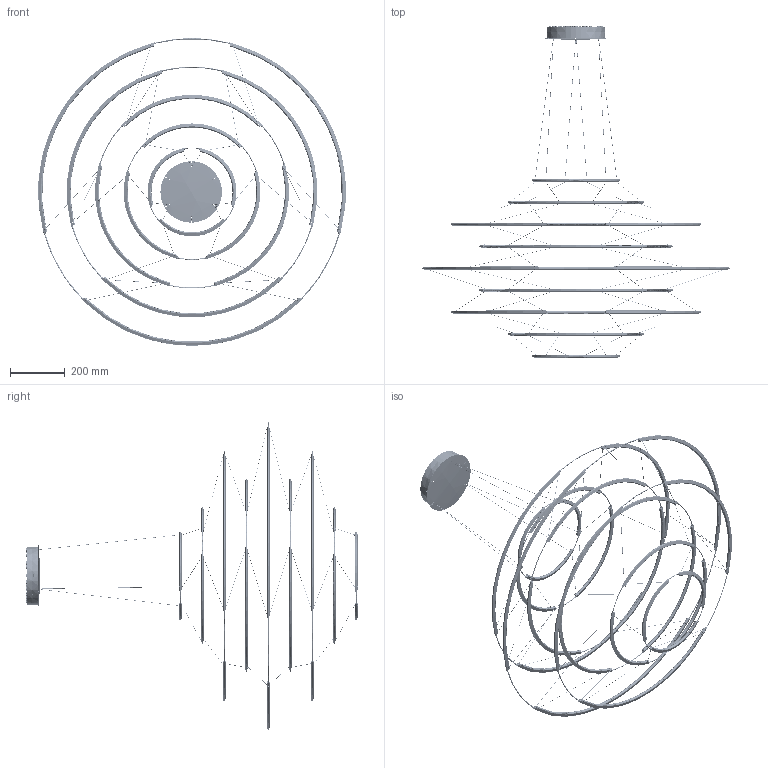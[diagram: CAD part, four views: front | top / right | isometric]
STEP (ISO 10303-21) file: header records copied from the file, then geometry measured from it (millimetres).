
FILE_DESCRIPTION (( 'STEP AP214' ), '1' );
FILE_NAME ('3d_drop.STEP', '2022-10-21T09:40:56', ( '' ), ( '' ), 'SwSTEP 2.0', 'SolidWorks 2016', '' );
FILE_SCHEMA (( 'AUTOMOTIVE_DESIGN' ));
Length unit declared in the file: millimetre
Products named in the file (41): 052DRP700100-200_END CAP_-; 051DRP000100_estruso drop_712; Parte2^assieme piani; piano singolo_300; 010DRP000100-500_tondino piegato_500; 3d_drop; ASS_TERZO_DROP_500; piano singolo_900; DRP_PROFILO PLASTICA_GIPLAST13PE59_512; 051DRP000100_estruso drop_1120; 052DRP700100-200_END CAP_+; 000_ASS_A DROP_CONNETTORE_-; DRP_PROFILO PLASTICA_GIPLAST13PE59_312; ASS_TERZO_DROP_1100; 051DRP000100_estruso drop_312; 093DRP000100_striscia LED DROP A MISURA_300; 010DRP000100-500_tondino piegato_900; 093DRP000100_striscia LED DROP A MISURA_700; piano singolo_500; DRP_PROFILO PLASTICA_GIPLAST13PE59_912; DRP_PROFILO PLASTICA_GIPLAST13PE59_1112; SpecchiaturaParte2^assieme piani; 000_ASS_A DROP_CONNETTORE_+; DRP_PROFILO PLASTICA_GIPLAST13PE59_712; ASS_UNI CANOPY_ELLISSE DOUBLE; 051DRP000100_estruso drop_512; 010DRP000100-500_tondino piegato_700; piano singolo_1100; ASS_TERZO_DROP_900; 093DRP000100_striscia LED DROP A MISURA_500; 052COM702210_BASE ROSONE_A_Rosone stampato; 093DRP000100_striscia LED DROP A MISURA_900; grano EI M5x08 PP; piano singolo_700; ASS_TERZO_DROP_300; 010DRP000100-500_tondino piegato_1100; 051DRP000100_estruso drop_912; 093DRP000100_striscia LED DROP A MISURA_1100; 010DRP000100-500_tondino piegato_300; 052COM702300_COPERCHIO ROSONE_052COM702400_6 TAGLI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
Assembly tree (66 placements, depth 5):
  3d_drop
    piano singolo_300  x2
      ASS_TERZO_DROP_300
        051DRP000100_estruso drop_312
        000_ASS_A DROP_CONNETTORE_-
          052DRP700100-200_END CAP_-
        000_ASS_A DROP_CONNETTORE_+
          052DRP700100-200_END CAP_+
          grano EI M5x08 PP
        093DRP000100_striscia LED DROP A MISURA_300
        DRP_PROFILO PLASTICA_GIPLAST13PE59_312
        010DRP000100-500_tondino piegato_300
    piano singolo_900  x2
      ASS_TERZO_DROP_900
        051DRP000100_estruso drop_912
        000_ASS_A DROP_CONNETTORE_-
          052DRP700100-200_END CAP_-
        000_ASS_A DROP_CONNETTORE_+
          052DRP700100-200_END CAP_+
          grano EI M5x08 PP
        093DRP000100_striscia LED DROP A MISURA_900
        DRP_PROFILO PLASTICA_GIPLAST13PE59_912
        010DRP000100-500_tondino piegato_900
    piano singolo_1100
      ASS_TERZO_DROP_1100  x3
        051DRP000100_estruso drop_1120
        000_ASS_A DROP_CONNETTORE_-
          052DRP700100-200_END CAP_-
        000_ASS_A DROP_CONNETTORE_+
          052DRP700100-200_END CAP_+
          grano EI M5x08 PP
        093DRP000100_striscia LED DROP A MISURA_1100
        DRP_PROFILO PLASTICA_GIPLAST13PE59_1112
        010DRP000100-500_tondino piegato_1100
    piano singolo_500  x2
      ASS_TERZO_DROP_500
        051DRP000100_estruso drop_512
        000_ASS_A DROP_CONNETTORE_-
          052DRP700100-200_END CAP_-
        000_ASS_A DROP_CONNETTORE_+
          052DRP700100-200_END CAP_+
          grano EI M5x08 PP
        093DRP000100_striscia LED DROP A MISURA_500
        DRP_PROFILO PLASTICA_GIPLAST13PE59_512
        010DRP000100-500_tondino piegato_500
    piano singolo_700  x2
      ASS_TERZO_DROP_700
        051DRP000100_estruso drop_712
        000_ASS_A DROP_CONNETTORE_-
          052DRP700100-200_END CAP_-
        000_ASS_A DROP_CONNETTORE_+
          052DRP700100-200_END CAP_+
          grano EI M5x08 PP
        093DRP000100_striscia LED DROP A MISURA_700
        DRP_PROFILO PLASTICA_GIPLAST13PE59_712
        010DRP000100-500_tondino piegato_700
    Parte2^assieme piani  x3
    SpecchiaturaParte2^assieme piani  x3
    ASS_UNI CANOPY_ELLISSE DOUBLE
      052COM702210_BASE ROSONE_A_Rosone stampato
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Bounding box: 1118.79 x 1208.5 x 1119.74 mm (x, y, z)
Volume: 1139056.1 mm3; surface area: 1773227.4 mm2
Topology: 197 solids, 197 shells, 15840 faces, 42392 edges, 26902 vertices
Faces by surface type: plane 6541, cylinder 4427, bspline 1864, torus 1372, cone 1346, sphere 290
Entity records: 208412 total; most frequent: CARTESIAN_POINT 87511, ORIENTED_EDGE 26176, DIRECTION 21745, EDGE_CURVE 13088, VERTEX_POINT 8496, AXIS2_PLACEMENT_3D 7568, VECTOR 6609, LINE 6609
